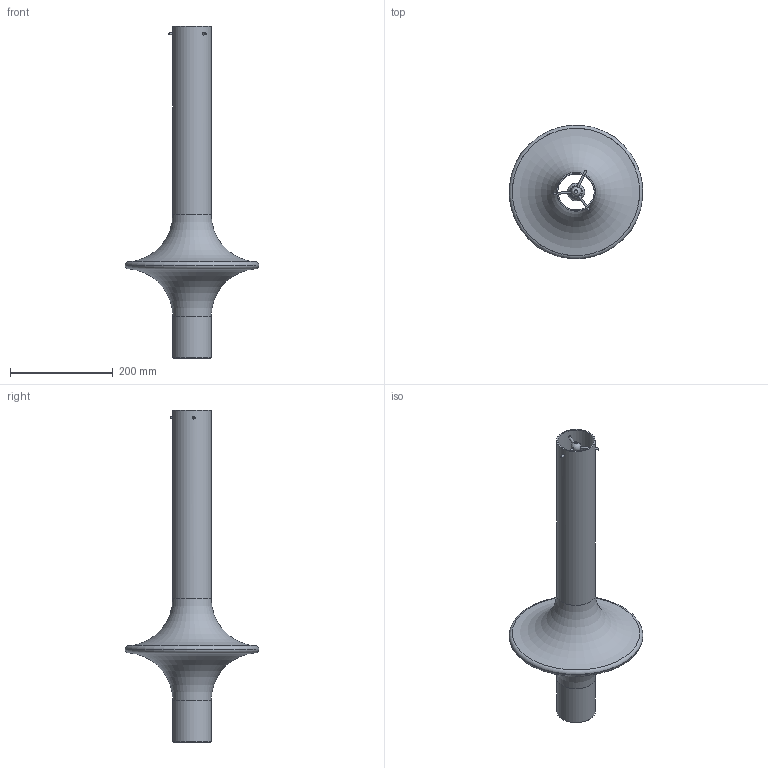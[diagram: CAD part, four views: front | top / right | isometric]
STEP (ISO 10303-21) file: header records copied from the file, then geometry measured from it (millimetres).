
FILE_DESCRIPTION(/* description */ (''),/* implementation_level */ '2;1');
FILE_NAME(/* name */ 'C:\Users\STEFANO\Desktop\3D SEM\1504-23 - WONDER SOSPENSIONE LARGE F.E\SEM.000032.stp',/* time_stamp */ '2019-09-16T11:33:30+02:00',/* author */ ('STEFANO'),/* organization */ (''),/* preprocessor_version */ 'ST-DEVELOPER v17',/* originating_system */ 'Autodesk Inventor 2019',/* authorisation */ '');
FILE_SCHEMA (('AUTOMOTIVE_DESIGN { 1 0 10303 214 3 1 1 }'));
Length unit declared in the file: millimetre
Products named in the file (7): SEM.000029 da modificare; 16492_065.01; 16492_048.01; 16492_050.01; 16492_049.022; pirolino large; LARGE 75
Assembly tree (8 placements, depth 2):
  SEM.000029 da modificare
    16492_065.01
    16492_048.01
    16492_050.01
    16492_049.022
    pirolino large  x3
    LARGE 75
Bounding box: 259.12 x 259.12 x 645 mm (x, y, z)
Volume: 578397.4 mm3; surface area: 493532.3 mm2
Topology: 8 solids, 9 shells, 65 faces, 160 edges, 114 vertices
Faces by surface type: cylinder 26, plane 20, torus 11, cone 6, sphere 2
Full cylindrical faces by diameter (mm): 3.3 x3, 4 x3, 4.5 x3, 5 x3, 10 x1, 10.036 x1, 23.6 x1, 70.6 x2, 75 x2, 255.6 x1, 260 x1
Entity records: 2450 total; most frequent: CARTESIAN_POINT 660, DIRECTION 376, ORIENTED_EDGE 300, AXIS2_PLACEMENT_3D 174, EDGE_CURVE 150, VERTEX_POINT 110, CIRCLE 97, EDGE_LOOP 72
